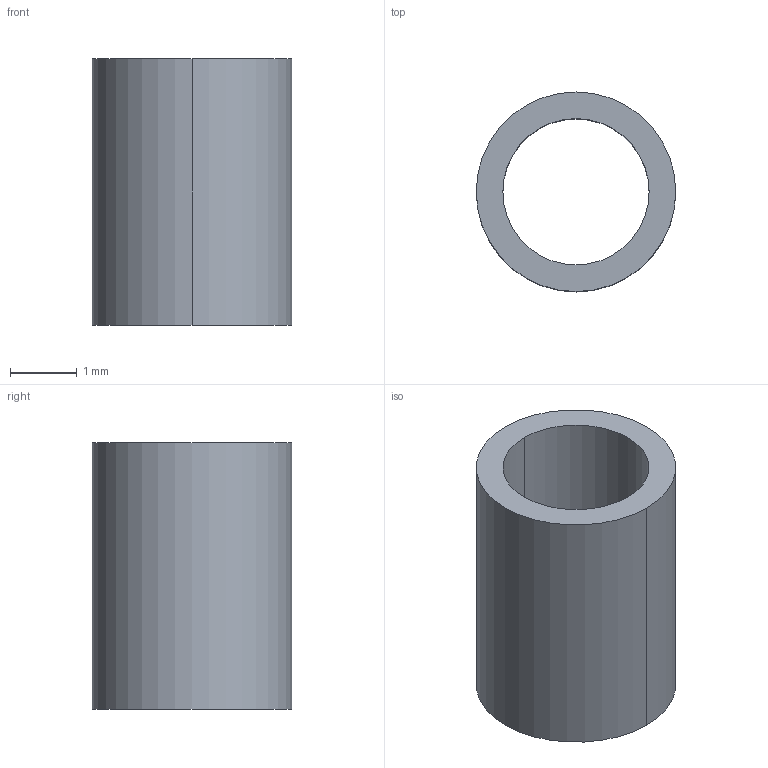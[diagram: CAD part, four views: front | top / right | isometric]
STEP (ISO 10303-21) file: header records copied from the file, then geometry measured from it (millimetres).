
FILE_DESCRIPTION(/* description */ ('VariCAD 2010-3.03 AP-214'),/* implementation_level */ '2;1');
FILE_NAME(/* name */ '0353-19-51',/* time_stamp */ '2011-01-17T16:42:00-07:00',/* author */ (''),/* organization */ (''),/* preprocessor_version */ 'ST-DEVELOPER v12',/* originating_system */ 'VariCAD 2010-3.03; kernel version (20100102)',/* authorisation */ '');
FILE_SCHEMA (('AUTOMOTIVE_DESIGN'));
Length unit declared in the file: millimetre
Products named in the file (1): Part
Bounding box: 3 x 3 x 4 mm (x, y, z)
Volume: 13.1 mm3; surface area: 71.9 mm2
Topology: 1 solids, 1 shells, 6 faces, 12 edges, 8 vertices
Faces by surface type: cylinder 4, plane 2
Entity records: 195 total; most frequent: DIRECTION 36, CARTESIAN_POINT 28, ORIENTED_EDGE 24, AXIS2_PLACEMENT_3D 16, EDGE_CURVE 12, EDGE_LOOP 8, CIRCLE 8, VERTEX_POINT 8
